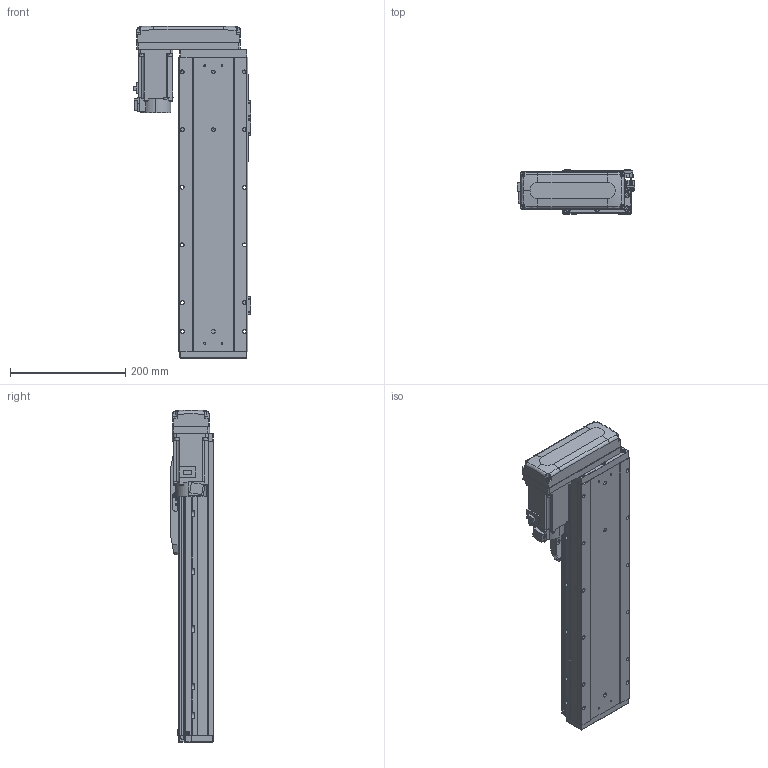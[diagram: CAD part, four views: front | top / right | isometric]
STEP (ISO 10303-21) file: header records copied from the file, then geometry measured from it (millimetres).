
FILE_DESCRIPTION (( 'STEP AP203' ), '1' );
FILE_NAME ('GTH12-300-BR-M40-C4.step', '2023-07-05T00:05:38', ( '微软用户' ), ( '微软中国' ), 'SwSTEP 2.0', 'SolidWorks 2020', '' );
FILE_SCHEMA (( 'CONFIG_CONTROL_DESIGN' ));
Length unit declared in the file: millimetre
Products named in the file (18): GTH120-006; GTH80-028; GTH120-027-1_GTH120-027-2; GTH120-004; GTH50-023; GTH12-300-BR-M40-C4; GTH120-013; GTH50-024; GBT 70.1-M3℅6; GBT96.1-2002 3×0.8; GBT 70.1-M5×16; BTH-M3X5X6; GTH120-001_300; GBT 70.3-M3℅8; hg-kn43j_-s100_; GTH120-003; GTH80-022; CTHA86-033_M40B
Assembly tree (59 placements, depth 2):
  GTH12-300-BR-M40-C4
    GTH120-001_300
    GTH120-003
    GTH120-006
    GTH120-004
    GTH120-013
    GBT 70.1-M3℅6  x14
    GBT 70.1-M5×16  x10
    GBT 70.3-M3℅8  x4
    GTH80-022
    GTH80-028  x2
    GTH50-023  x3
    GTH50-024  x3
    GBT96.1-2002 3×0.8  x6
    BTH-M3X5X6  x8
    hg-kn43j_-s100_
    CTHA86-033_M40B
    GTH120-027-1_GTH120-027-2
Bounding box: 203.5 x 76 x 575.5 mm (x, y, z)
Volume: 4604554.6 mm3; surface area: 489669.4 mm2
Topology: 61 solids, 61 shells, 2382 faces, 5533 edges, 3393 vertices
Faces by surface type: plane 1238, cylinder 676, cone 280, torus 174, sphere 8, bspline 6
Entity records: 43663 total; most frequent: CARTESIAN_POINT 7394, DIRECTION 7197, ORIENTED_EDGE 6676, EDGE_CURVE 3338, AXIS2_PLACEMENT_3D 2517, VECTOR 2163, LINE 2163, VERTEX_POINT 2114
